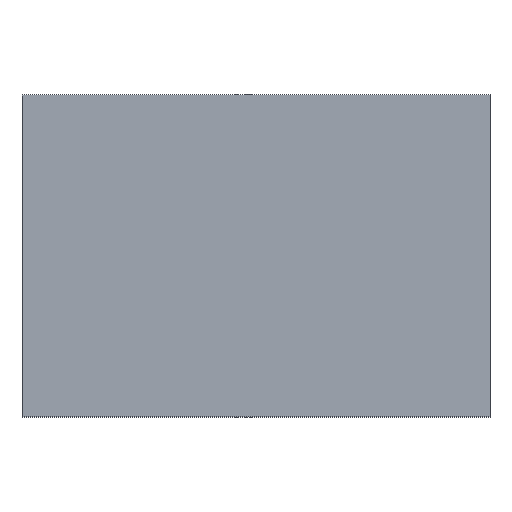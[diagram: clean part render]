
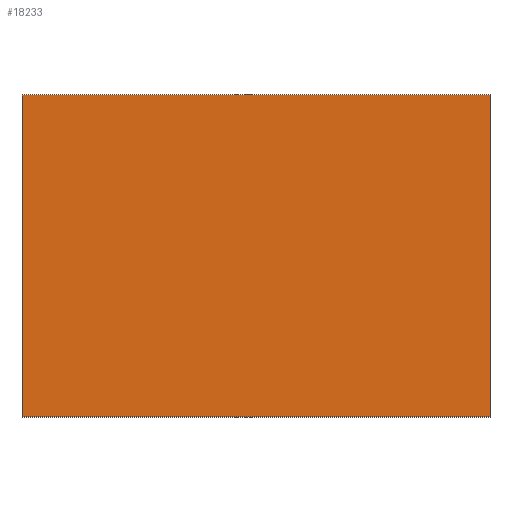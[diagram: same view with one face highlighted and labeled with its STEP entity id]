
A CAD part, top view. The second image highlights one B-rep face of the part: STEP entity #18233.
In plain terms, the highlighted planar face has unit normal (0, 0, 1).
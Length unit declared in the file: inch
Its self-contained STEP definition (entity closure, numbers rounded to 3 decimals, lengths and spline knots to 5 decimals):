
#18232 = EDGE_CURVE ( 'NONE', #18313, #19873, #23509, .T. ) ;
#18233 = ADVANCED_FACE ( 'NONE', ( #23505 ), #23504, .T. ) ;
#18234 = ORIENTED_EDGE ( 'NONE', *, *, #18235, .F. ) ;
#18235 = EDGE_CURVE ( 'NONE', #18313, #18331, #23499, .T. ) ;
#18236 = ORIENTED_EDGE ( 'NONE', *, *, #18232, .T. ) ;
#18237 = ORIENTED_EDGE ( 'NONE', *, *, #19881, .F. ) ;
#18238 = ORIENTED_EDGE ( 'NONE', *, *, #18269, .F. ) ;
#18269 = EDGE_CURVE ( 'NONE', #18331, #19879, #23370, .T. ) ;
#18305 = EDGE_LOOP ( 'NONE', ( #18234, #18236, #18237, #18238 ) ) ;
#18313 = VERTEX_POINT ( 'NONE', #23749 ) ;
#18331 = VERTEX_POINT ( 'NONE', #23549 ) ;
#19873 = VERTEX_POINT ( 'NONE', #34429 ) ;
#19879 = VERTEX_POINT ( 'NONE', #34356 ) ;
#19881 = EDGE_CURVE ( 'NONE', #19879, #19873, #34355, .T. ) ;
#23367 = DIRECTION ( 'NONE',  ( 0., 1., 0. ) ) ;
#23368 = VECTOR ( 'NONE', #23367, 39.37008 ) ;
#23369 = CARTESIAN_POINT ( 'NONE',  ( -7.21, -25.77697, 3.31 ) ) ;
#23370 = LINE ( 'NONE', #23369, #23368 ) ;
#23496 = DIRECTION ( 'NONE',  ( -1., 0., 0. ) ) ;
#23497 = VECTOR ( 'NONE', #23496, 39.37008 ) ;
#23498 = CARTESIAN_POINT ( 'NONE',  ( -7.21, -9.91, 3.31 ) ) ;
#23499 = LINE ( 'NONE', #23498, #23497 ) ;
#23500 = DIRECTION ( 'NONE',  ( 1., 0., 0. ) ) ;
#23501 = DIRECTION ( 'NONE',  ( 0., 0., 1. ) ) ;
#23502 = CARTESIAN_POINT ( 'NONE',  ( -7.21, -25.77697, 3.31 ) ) ;
#23503 = AXIS2_PLACEMENT_3D ( 'NONE', #23502, #23501, #23500 ) ;
#23504 = PLANE ( 'NONE',  #23503 ) ;
#23505 = FACE_OUTER_BOUND ( 'NONE', #18305, .T. ) ;
#23506 = DIRECTION ( 'NONE',  ( 0., 1., 0. ) ) ;
#23507 = VECTOR ( 'NONE', #23506, 39.37008 ) ;
#23508 = CARTESIAN_POINT ( 'NONE',  ( 7.21, -25.77697, 3.31 ) ) ;
#23509 = LINE ( 'NONE', #23508, #23507 ) ;
#23549 = CARTESIAN_POINT ( 'NONE',  ( -7.21, -9.91, 3.31 ) ) ;
#23749 = CARTESIAN_POINT ( 'NONE',  ( 7.21, -9.91, 3.31 ) ) ;
#34352 = DIRECTION ( 'NONE',  ( 1., 0., 0. ) ) ;
#34353 = VECTOR ( 'NONE', #34352, 39.37008 ) ;
#34354 = CARTESIAN_POINT ( 'NONE',  ( -7.21, 0., 3.31 ) ) ;
#34355 = LINE ( 'NONE', #34354, #34353 ) ;
#34356 = CARTESIAN_POINT ( 'NONE',  ( -7.21, 0., 3.31 ) ) ;
#34429 = CARTESIAN_POINT ( 'NONE',  ( 7.21, 0., 3.31 ) ) ;
